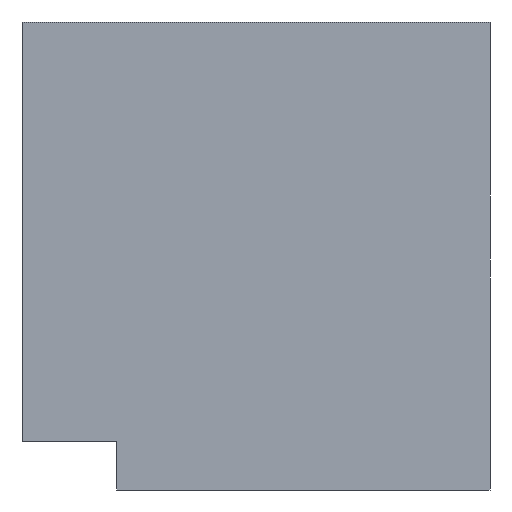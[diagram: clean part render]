
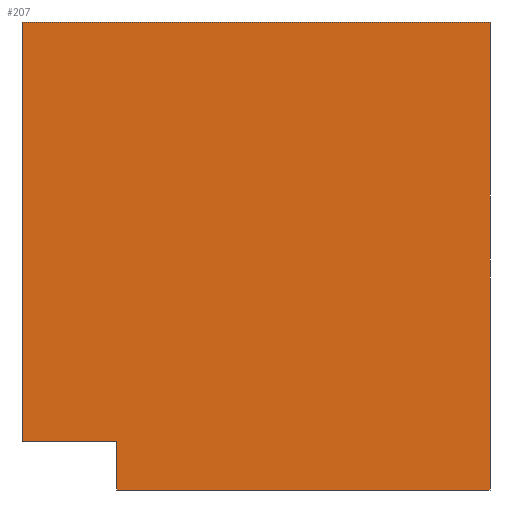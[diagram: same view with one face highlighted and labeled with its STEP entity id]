
A CAD part, left-side view. The second image highlights one B-rep face of the part: STEP entity #207.
In plain terms, the highlighted planar face has unit normal (-1, 0, 0).
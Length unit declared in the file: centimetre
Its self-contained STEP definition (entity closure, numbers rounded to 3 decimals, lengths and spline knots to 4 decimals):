
#1 = DIRECTION ( 'NONE',  ( 0., 1., 0. ) ) ;
#7 = DIRECTION ( 'NONE',  ( 0., 0., 1. ) ) ;
#36 = CARTESIAN_POINT ( 'NONE',  ( 0., 1000., 103.3244 ) ) ;
#41 = CARTESIAN_POINT ( 'NONE',  ( 0., 797.1387, 103.3244 ) ) ;
#42 = ORIENTED_EDGE ( 'NONE', *, *, #163, .F. ) ;
#50 = VECTOR ( 'NONE', #1, 100. ) ;
#100 = DIRECTION ( 'NONE',  ( 0., -1., 0. ) ) ;
#104 = CARTESIAN_POINT ( 'NONE',  ( 0., 1000., 1000. ) ) ;
#123 = VECTOR ( 'NONE', #7, 100. ) ;
#130 = FACE_OUTER_BOUND ( 'NONE', #476, .T. ) ;
#132 = ORIENTED_EDGE ( 'NONE', *, *, #364, .F. ) ;
#156 = VECTOR ( 'NONE', #100, 100. ) ;
#163 = EDGE_CURVE ( 'NONE', #347, #229, #168, .T. ) ;
#164 = ORIENTED_EDGE ( 'NONE', *, *, #212, .T. ) ;
#168 = LINE ( 'NONE', #41, #50 ) ;
#169 = VERTEX_POINT ( 'NONE', #439 ) ;
#184 = LINE ( 'NONE', #492, #322 ) ;
#207 = ADVANCED_FACE ( 'NONE', ( #130 ), #256, .F. ) ;
#210 = CARTESIAN_POINT ( 'NONE',  ( 0., 1000., 1000. ) ) ;
#212 = EDGE_CURVE ( 'NONE', #427, #229, #251, .T. ) ;
#217 = ORIENTED_EDGE ( 'NONE', *, *, #526, .F. ) ;
#218 = DIRECTION ( 'NONE',  ( 0., 0., -1. ) ) ;
#228 = CARTESIAN_POINT ( 'NONE',  ( 0., 797.1387, 0. ) ) ;
#229 = VERTEX_POINT ( 'NONE', #36 ) ;
#238 = CARTESIAN_POINT ( 'NONE',  ( 0., 1000., 1000. ) ) ;
#251 = LINE ( 'NONE', #428, #328 ) ;
#256 = PLANE ( 'NONE',  #357 ) ;
#266 = CARTESIAN_POINT ( 'NONE',  ( 0., 0., 0. ) ) ;
#296 = EDGE_CURVE ( 'NONE', #533, #578, #413, .T. ) ;
#317 = CARTESIAN_POINT ( 'NONE',  ( 0., 797.1387, 0. ) ) ;
#322 = VECTOR ( 'NONE', #546, 100. ) ;
#328 = VECTOR ( 'NONE', #218, 100. ) ;
#347 = VERTEX_POINT ( 'NONE', #367 ) ;
#357 = AXIS2_PLACEMENT_3D ( 'NONE', #210, #522, #396 ) ;
#364 = EDGE_CURVE ( 'NONE', #533, #347, #408, .T. ) ;
#367 = CARTESIAN_POINT ( 'NONE',  ( 0., 797.1387, 103.3244 ) ) ;
#396 = DIRECTION ( 'NONE',  ( 0., 0., -1. ) ) ;
#407 = ORIENTED_EDGE ( 'NONE', *, *, #437, .F. ) ;
#408 = LINE ( 'NONE', #317, #123 ) ;
#413 = LINE ( 'NONE', #534, #156 ) ;
#415 = DIRECTION ( 'NONE',  ( 0., -1., 0. ) ) ;
#418 = LINE ( 'NONE', #238, #537 ) ;
#420 = ORIENTED_EDGE ( 'NONE', *, *, #296, .T. ) ;
#427 = VERTEX_POINT ( 'NONE', #104 ) ;
#428 = CARTESIAN_POINT ( 'NONE',  ( 0., 1000., 1000. ) ) ;
#437 = EDGE_CURVE ( 'NONE', #427, #169, #418, .T. ) ;
#439 = CARTESIAN_POINT ( 'NONE',  ( 0., 0., 1000. ) ) ;
#476 = EDGE_LOOP ( 'NONE', ( #164, #42, #132, #420, #217, #407 ) ) ;
#492 = CARTESIAN_POINT ( 'NONE',  ( 0., 0., 1000. ) ) ;
#522 = DIRECTION ( 'NONE',  ( 1., 0., 0. ) ) ;
#526 = EDGE_CURVE ( 'NONE', #169, #578, #184, .T. ) ;
#533 = VERTEX_POINT ( 'NONE', #228 ) ;
#534 = CARTESIAN_POINT ( 'NONE',  ( 0., 1000., 0. ) ) ;
#537 = VECTOR ( 'NONE', #415, 100. ) ;
#546 = DIRECTION ( 'NONE',  ( 0., 0., -1. ) ) ;
#578 = VERTEX_POINT ( 'NONE', #266 ) ;
